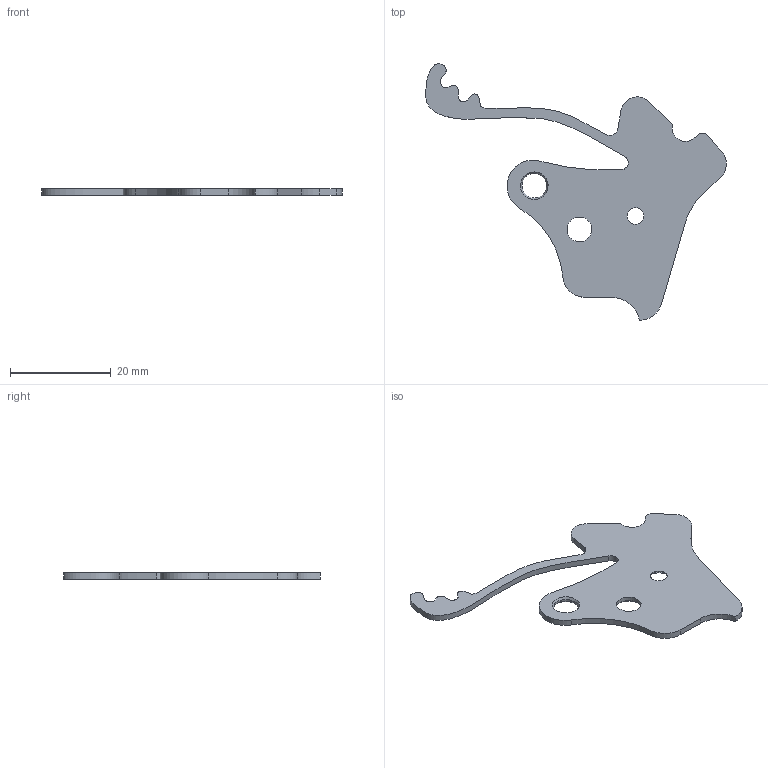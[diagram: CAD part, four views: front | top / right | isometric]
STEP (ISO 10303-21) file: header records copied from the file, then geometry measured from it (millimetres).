
FILE_DESCRIPTION(/* description */ (''),/* implementation_level */ '2;1');
FILE_NAME(/* name */ 'D:\Desktop\Benchmark CAD Files\ScaledBy3\plate3.stp',/* time_stamp */ '2019-08-13T08:35:04+02:00',/* author */ ('fkhad'),/* organization */ (''),/* preprocessor_version */ 'ST-DEVELOPER v17',/* originating_system */ 'Autodesk Inventor 2018',/* authorisation */ '');
FILE_SCHEMA (('AUTOMOTIVE_DESIGN { 1 0 10303 214 3 1 1 }'));
Length unit declared in the file: millimetre
Products named in the file (1): Solid8
Bounding box: 59.71 x 50.97 x 1.2 mm (x, y, z)
Volume: 1222.7 mm3; surface area: 2408 mm2
Topology: 1 solids, 1 shells, 32 faces, 95 edges, 65 vertices
Faces by surface type: cylinder 13, plane 10, bspline 5, cone 4
Full cylindrical faces by diameter (mm): 3.325 x1, 4.9 x2
Entity records: 1444 total; most frequent: CARTESIAN_POINT 485, ORIENTED_EDGE 190, DIRECTION 180, EDGE_CURVE 95, AXIS2_PLACEMENT_3D 67, VERTEX_POINT 65, LINE 46, VECTOR 46
